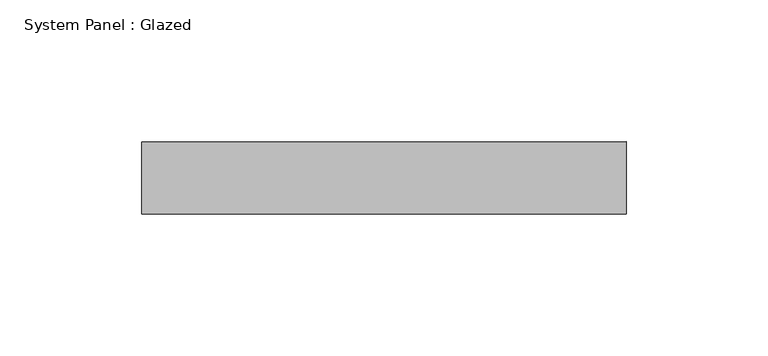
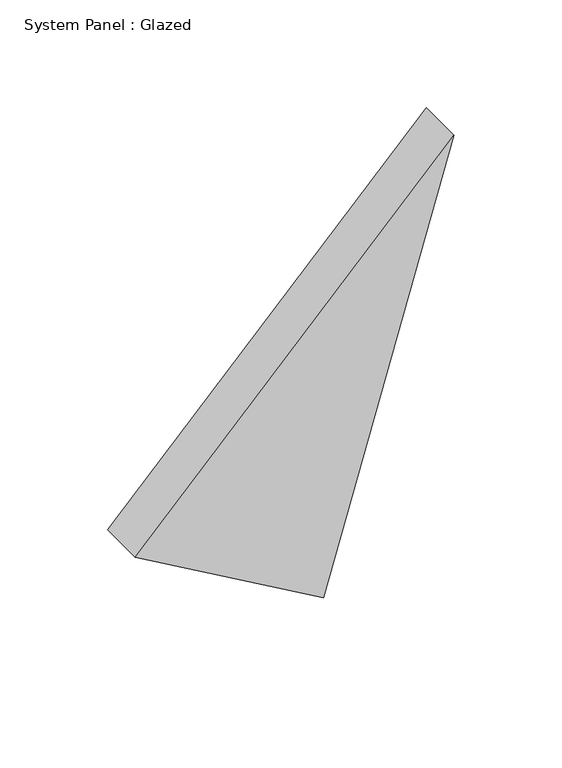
"""IFC4 building model written with IfcOpenShell, lengths in millimetres: plate geometry, System Panel : Glazed."""

from ifc_helpers import new_model, si_unit, frame, origin, place, context, project, spatial, polyline, outline, extrude, source, transform, mapped, element, save


def system_panel_glazed_0b4f80da(model_context):
    return source(origin(), model_context, "Body", "SweptSolid", [
        extrude(outline(polyline([(58.2475578, -85.2792404), (0.0, 15.5228005), (237.0658401, 85.2792404), (58.2475578, -85.2792404)])), frame((0.0, -44.45, 0.0), z_axis=(0.0, 1.0, 0.0), x_axis=(0.0, 0.0, 1.0)), (0.0, 0.0, 1.0), 25.4),
    ])


if __name__ == "__main__":
    model = new_model("IFC4")
    model_context = context("Model", 3, world=origin())
    ifc_project = project(units=[si_unit("LENGTHUNIT", "METRE", prefix="MILLI")], contexts=[model_context])
    site = spatial("IfcSite", under=ifc_project)
    building = spatial("IfcBuilding", under=site)
    placement = place(None, origin())
    system_panel_glazed_shape = system_panel_glazed_0b4f80da(model_context)
    element("IfcPlate", 1, ObjectType="System Panel : Glazed", at=placement, inside=building, context=model_context, shape_type="MappedRepresentation", body=[
        mapped(system_panel_glazed_shape, transform((0.0, 0.0, 0.0), x_axis=(1.0, 0.0, 0.0), y_axis=(0.0, 1.0, 0.0), z_axis=(0.0, 0.0, 1.0))),
    ])
    save(model, "model.ifc")
